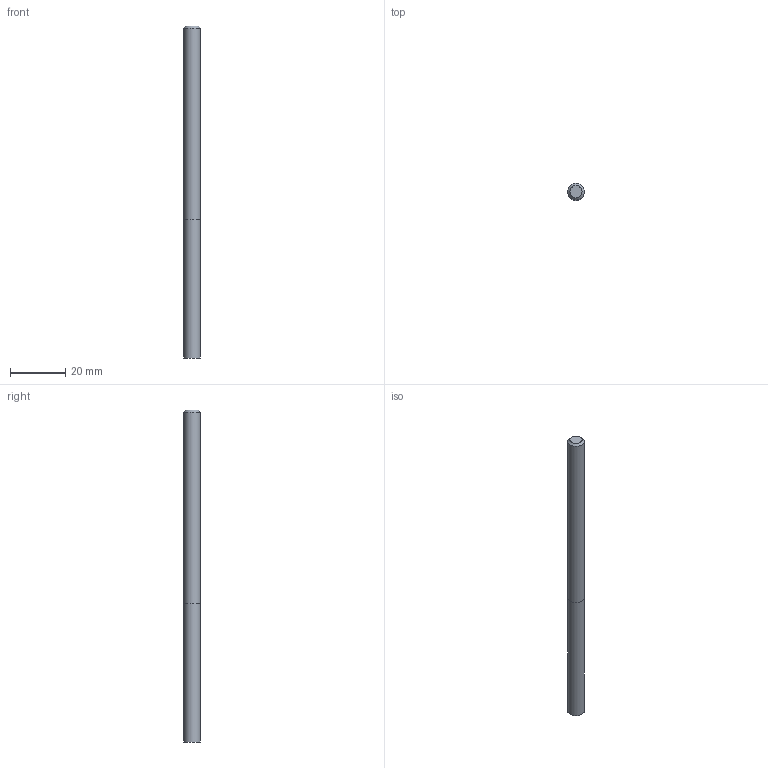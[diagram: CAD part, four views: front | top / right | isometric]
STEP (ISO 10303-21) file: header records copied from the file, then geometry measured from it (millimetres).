
FILE_DESCRIPTION((''),'2;1');
FILE_NAME('C:\Users\nsx150\Desktop\RSE230_20210427\01-00644-06005 RSE230 D6X50.step','2021-05-07T14:54:31',(''),(''),'STEP Write','Mastercam 2021 ... CNC Software, Inc.','');
FILE_SCHEMA(('AUTOMOTIVE_DESIGN'));
Length unit declared in the file: millimetre
Products named in the file (1): None
Bounding box: 6 x 6 x 120 mm (x, y, z)
Volume: 3387.4 mm3; surface area: 2365.4 mm2
Topology: 2 solids, 2 shells, 7 faces, 8 edges, 5 vertices
Faces by surface type: plane 4, cylinder 2, cone 1
Full cylindrical faces by diameter (mm): 6 x2
Entity records: 169 total; most frequent: DIRECTION 28, CARTESIAN_POINT 19, AXIS2_PLACEMENT_3D 14, ORIENTED_EDGE 10, EDGE_LOOP 10, STYLED_ITEM 10, ADVANCED_FACE 7, VERTEX_POINT 5
